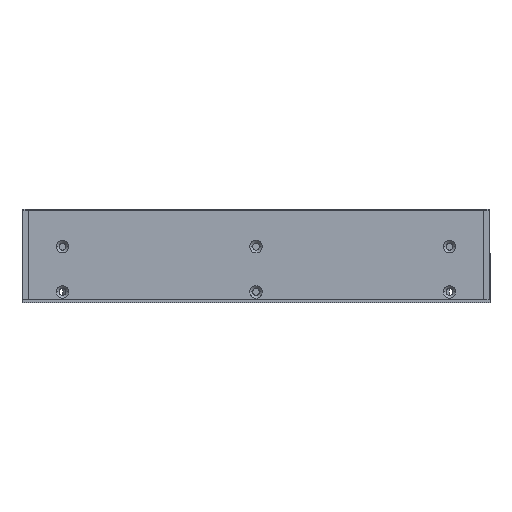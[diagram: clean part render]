
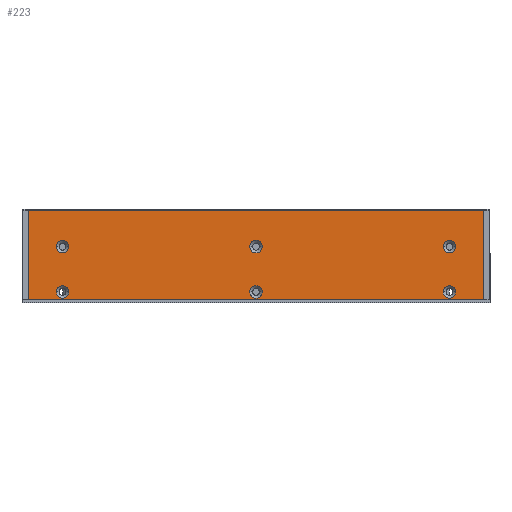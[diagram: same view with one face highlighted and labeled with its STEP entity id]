
A CAD part, front view. The second image highlights one B-rep face of the part: STEP entity #223.
In plain terms, the highlighted planar face has unit normal (0, -1, 0).
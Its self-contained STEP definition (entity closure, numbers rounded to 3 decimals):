
#11 = ORIENTED_EDGE ( 'NONE', *, *, #9347, .F. ) ;
#23 = CIRCLE ( 'NONE', #2970, 2. ) ;
#54 = LINE ( 'NONE', #784, #998 ) ;
#220 = EDGE_CURVE ( 'NONE', #411, #3539, #2284, .T. ) ;
#223 = ADVANCED_FACE ( 'NONE', ( #297, #8084, #4773, #6081, #2868, #753, #6541 ), #3564, .T. ) ;
#291 = AXIS2_PLACEMENT_3D ( 'NONE', #707, #1512, #6009 ) ;
#295 = AXIS2_PLACEMENT_3D ( 'NONE', #7357, #5019, #5115 ) ;
#297 = FACE_BOUND ( 'NONE', #1228, .T. ) ;
#298 = VERTEX_POINT ( 'NONE', #5103 ) ;
#340 = CIRCLE ( 'NONE', #295, 2. ) ;
#411 = VERTEX_POINT ( 'NONE', #5470 ) ;
#425 = ORIENTED_EDGE ( 'NONE', *, *, #3724, .T. ) ;
#589 = DIRECTION ( 'NONE',  ( 1., 0., 0. ) ) ;
#618 = CIRCLE ( 'NONE', #5036, 2. ) ;
#626 = DIRECTION ( 'NONE',  ( 0., -1., 0. ) ) ;
#648 = EDGE_CURVE ( 'NONE', #9593, #7844, #5950, .T. ) ;
#697 = DIRECTION ( 'NONE',  ( 1., 0., 0. ) ) ;
#707 = CARTESIAN_POINT ( 'NONE',  ( -7.853, -76.472, 163. ) ) ;
#736 = CARTESIAN_POINT ( 'NONE',  ( 65.147, -76.472, 146. ) ) ;
#753 = FACE_BOUND ( 'NONE', #4688, .T. ) ;
#779 = VECTOR ( 'NONE', #4387, 1000. ) ;
#784 = CARTESIAN_POINT ( 'NONE',  ( -80.853, -76.472, 174.7 ) ) ;
#834 = EDGE_CURVE ( 'NONE', #2183, #3367, #4629, .T. ) ;
#837 = EDGE_CURVE ( 'NONE', #5319, #2652, #618, .T. ) ;
#988 = DIRECTION ( 'NONE',  ( 1., 0., 0. ) ) ;
#998 = VECTOR ( 'NONE', #1558, 1000. ) ;
#1071 = VECTOR ( 'NONE', #6275, 1000. ) ;
#1173 = EDGE_CURVE ( 'NONE', #7343, #9386, #23, .T. ) ;
#1202 = DIRECTION ( 'NONE',  ( 1., 0., 0. ) ) ;
#1228 = EDGE_LOOP ( 'NONE', ( #6460, #5021 ) ) ;
#1292 = DIRECTION ( 'NONE',  ( 0., -1., 0. ) ) ;
#1297 = LINE ( 'NONE', #5524, #1071 ) ;
#1412 = DIRECTION ( 'NONE',  ( 0., -1., 0. ) ) ;
#1466 = CARTESIAN_POINT ( 'NONE',  ( -5.853, -76.472, 148.5 ) ) ;
#1512 = DIRECTION ( 'NONE',  ( 0., -1., 0. ) ) ;
#1558 = DIRECTION ( 'NONE',  ( -1., 0., 0. ) ) ;
#1647 = ORIENTED_EDGE ( 'NONE', *, *, #1173, .F. ) ;
#1707 = DIRECTION ( 'NONE',  ( 1., 0., 0. ) ) ;
#1726 = VERTEX_POINT ( 'NONE', #5354 ) ;
#1936 = CARTESIAN_POINT ( 'NONE',  ( -71.853, -76.472, 163. ) ) ;
#1991 = CARTESIAN_POINT ( 'NONE',  ( 65.147, -76.472, 146. ) ) ;
#2052 = DIRECTION ( 'NONE',  ( 1., 0., 0. ) ) ;
#2143 = CARTESIAN_POINT ( 'NONE',  ( 65.147, -76.472, 146. ) ) ;
#2169 = ORIENTED_EDGE ( 'NONE', *, *, #3922, .F. ) ;
#2177 = ORIENTED_EDGE ( 'NONE', *, *, #2772, .T. ) ;
#2183 = VERTEX_POINT ( 'NONE', #7399 ) ;
#2284 = CIRCLE ( 'NONE', #6644, 2. ) ;
#2307 = AXIS2_PLACEMENT_3D ( 'NONE', #9529, #3409, #7940 ) ;
#2417 = EDGE_LOOP ( 'NONE', ( #4195, #5854 ) ) ;
#2628 = CARTESIAN_POINT ( 'NONE',  ( -5.853, -76.472, 163. ) ) ;
#2652 = VERTEX_POINT ( 'NONE', #5146 ) ;
#2675 = DIRECTION ( 'NONE',  ( 0., -1., 0. ) ) ;
#2772 = EDGE_CURVE ( 'NONE', #298, #6888, #5046, .T. ) ;
#2776 = VERTEX_POINT ( 'NONE', #8302 ) ;
#2868 = FACE_OUTER_BOUND ( 'NONE', #8740, .T. ) ;
#2970 = AXIS2_PLACEMENT_3D ( 'NONE', #4776, #6308, #6277 ) ;
#3116 = CARTESIAN_POINT ( 'NONE',  ( 54.147, -76.472, 148.5 ) ) ;
#3346 = CARTESIAN_POINT ( 'NONE',  ( 56.147, -76.472, 163. ) ) ;
#3367 = VERTEX_POINT ( 'NONE', #1466 ) ;
#3409 = DIRECTION ( 'NONE',  ( 0., -1., 0. ) ) ;
#3431 = AXIS2_PLACEMENT_3D ( 'NONE', #5043, #1292, #2052 ) ;
#3539 = VERTEX_POINT ( 'NONE', #3346 ) ;
#3564 = PLANE ( 'NONE',  #3431 ) ;
#3594 = DIRECTION ( 'NONE',  ( 0., -1., 0. ) ) ;
#3724 = EDGE_CURVE ( 'NONE', #7652, #298, #1297, .T. ) ;
#3752 = CARTESIAN_POINT ( 'NONE',  ( -67.853, -76.472, 163. ) ) ;
#3922 = EDGE_CURVE ( 'NONE', #1726, #2776, #6163, .T. ) ;
#3954 = CIRCLE ( 'NONE', #8793, 2. ) ;
#3962 = ORIENTED_EDGE ( 'NONE', *, *, #7798, .T. ) ;
#4174 = CARTESIAN_POINT ( 'NONE',  ( 52.147, -76.472, 148.5 ) ) ;
#4195 = ORIENTED_EDGE ( 'NONE', *, *, #7576, .F. ) ;
#4347 = DIRECTION ( 'NONE',  ( 1., 0., 0. ) ) ;
#4387 = DIRECTION ( 'NONE',  ( 0., 0., 1. ) ) ;
#4434 = VERTEX_POINT ( 'NONE', #7383 ) ;
#4547 = EDGE_LOOP ( 'NONE', ( #5722, #1647 ) ) ;
#4629 = CIRCLE ( 'NONE', #2307, 2. ) ;
#4688 = EDGE_LOOP ( 'NONE', ( #5695, #8685 ) ) ;
#4773 = FACE_BOUND ( 'NONE', #2417, .T. ) ;
#4776 = CARTESIAN_POINT ( 'NONE',  ( -69.853, -76.472, 163. ) ) ;
#4982 = CARTESIAN_POINT ( 'NONE',  ( 54.147, -76.472, 148.5 ) ) ;
#5006 = EDGE_CURVE ( 'NONE', #3539, #411, #3954, .T. ) ;
#5019 = DIRECTION ( 'NONE',  ( 0., -1., 0. ) ) ;
#5021 = ORIENTED_EDGE ( 'NONE', *, *, #8488, .F. ) ;
#5036 = AXIS2_PLACEMENT_3D ( 'NONE', #4982, #2675, #1202 ) ;
#5043 = CARTESIAN_POINT ( 'NONE',  ( -7.853, -76.472, 160.5 ) ) ;
#5046 = LINE ( 'NONE', #736, #9751 ) ;
#5077 = DIRECTION ( 'NONE',  ( 1., 0., 0. ) ) ;
#5103 = CARTESIAN_POINT ( 'NONE',  ( -80.853, -76.472, 146. ) ) ;
#5115 = DIRECTION ( 'NONE',  ( 1., 0., 0. ) ) ;
#5146 = CARTESIAN_POINT ( 'NONE',  ( 56.147, -76.472, 148.5 ) ) ;
#5210 = CARTESIAN_POINT ( 'NONE',  ( -80.853, -76.472, 174.7 ) ) ;
#5319 = VERTEX_POINT ( 'NONE', #4174 ) ;
#5353 = DIRECTION ( 'NONE',  ( 0., -1., 0. ) ) ;
#5354 = CARTESIAN_POINT ( 'NONE',  ( -71.853, -76.472, 148.5 ) ) ;
#5470 = CARTESIAN_POINT ( 'NONE',  ( 52.147, -76.472, 163. ) ) ;
#5524 = CARTESIAN_POINT ( 'NONE',  ( -80.853, -76.472, 146. ) ) ;
#5525 = LINE ( 'NONE', #2143, #779 ) ;
#5628 = EDGE_LOOP ( 'NONE', ( #7973, #7767 ) ) ;
#5688 = CIRCLE ( 'NONE', #7464, 2. ) ;
#5695 = ORIENTED_EDGE ( 'NONE', *, *, #9456, .F. ) ;
#5722 = ORIENTED_EDGE ( 'NONE', *, *, #8006, .F. ) ;
#5854 = ORIENTED_EDGE ( 'NONE', *, *, #834, .F. ) ;
#5909 = DIRECTION ( 'NONE',  ( 1., 0., 0. ) ) ;
#5950 = CIRCLE ( 'NONE', #291, 2. ) ;
#5958 = CARTESIAN_POINT ( 'NONE',  ( -69.853, -76.472, 148.5 ) ) ;
#6009 = DIRECTION ( 'NONE',  ( 1., 0., 0. ) ) ;
#6081 = FACE_BOUND ( 'NONE', #7736, .T. ) ;
#6082 = CARTESIAN_POINT ( 'NONE',  ( -69.853, -76.472, 163. ) ) ;
#6163 = CIRCLE ( 'NONE', #7281, 2. ) ;
#6275 = DIRECTION ( 'NONE',  ( 0., 0., -1. ) ) ;
#6277 = DIRECTION ( 'NONE',  ( 1., 0., 0. ) ) ;
#6308 = DIRECTION ( 'NONE',  ( 0., -1., 0. ) ) ;
#6460 = ORIENTED_EDGE ( 'NONE', *, *, #648, .F. ) ;
#6541 = FACE_BOUND ( 'NONE', #5628, .T. ) ;
#6611 = CARTESIAN_POINT ( 'NONE',  ( 54.147, -76.472, 163. ) ) ;
#6644 = AXIS2_PLACEMENT_3D ( 'NONE', #9540, #8170, #5077 ) ;
#6888 = VERTEX_POINT ( 'NONE', #1991 ) ;
#6913 = CIRCLE ( 'NONE', #9769, 2. ) ;
#6997 = AXIS2_PLACEMENT_3D ( 'NONE', #6082, #5353, #988 ) ;
#7219 = CIRCLE ( 'NONE', #9530, 2. ) ;
#7281 = AXIS2_PLACEMENT_3D ( 'NONE', #5958, #1412, #697 ) ;
#7343 = VERTEX_POINT ( 'NONE', #1936 ) ;
#7357 = CARTESIAN_POINT ( 'NONE',  ( -7.853, -76.472, 148.5 ) ) ;
#7383 = CARTESIAN_POINT ( 'NONE',  ( 65.147, -76.472, 174.7 ) ) ;
#7399 = CARTESIAN_POINT ( 'NONE',  ( -9.853, -76.472, 148.5 ) ) ;
#7464 = AXIS2_PLACEMENT_3D ( 'NONE', #3116, #8484, #1707 ) ;
#7576 = EDGE_CURVE ( 'NONE', #3367, #2183, #340, .T. ) ;
#7652 = VERTEX_POINT ( 'NONE', #5210 ) ;
#7736 = EDGE_LOOP ( 'NONE', ( #11, #2169 ) ) ;
#7767 = ORIENTED_EDGE ( 'NONE', *, *, #220, .F. ) ;
#7798 = EDGE_CURVE ( 'NONE', #6888, #4434, #5525, .T. ) ;
#7844 = VERTEX_POINT ( 'NONE', #9663 ) ;
#7940 = DIRECTION ( 'NONE',  ( 1., 0., 0. ) ) ;
#7973 = ORIENTED_EDGE ( 'NONE', *, *, #5006, .F. ) ;
#8006 = EDGE_CURVE ( 'NONE', #9386, #7343, #9520, .T. ) ;
#8084 = FACE_BOUND ( 'NONE', #4547, .T. ) ;
#8170 = DIRECTION ( 'NONE',  ( 0., -1., 0. ) ) ;
#8302 = CARTESIAN_POINT ( 'NONE',  ( -67.853, -76.472, 148.5 ) ) ;
#8484 = DIRECTION ( 'NONE',  ( 0., -1., 0. ) ) ;
#8488 = EDGE_CURVE ( 'NONE', #7844, #9593, #6913, .T. ) ;
#8571 = ORIENTED_EDGE ( 'NONE', *, *, #8613, .T. ) ;
#8613 = EDGE_CURVE ( 'NONE', #4434, #7652, #54, .T. ) ;
#8685 = ORIENTED_EDGE ( 'NONE', *, *, #837, .F. ) ;
#8740 = EDGE_LOOP ( 'NONE', ( #3962, #8571, #425, #2177 ) ) ;
#8793 = AXIS2_PLACEMENT_3D ( 'NONE', #6611, #3594, #5909 ) ;
#8830 = CARTESIAN_POINT ( 'NONE',  ( -69.853, -76.472, 148.5 ) ) ;
#8861 = DIRECTION ( 'NONE',  ( 0., -1., 0. ) ) ;
#9055 = DIRECTION ( 'NONE',  ( 1., 0., 0. ) ) ;
#9347 = EDGE_CURVE ( 'NONE', #2776, #1726, #7219, .T. ) ;
#9386 = VERTEX_POINT ( 'NONE', #3752 ) ;
#9456 = EDGE_CURVE ( 'NONE', #2652, #5319, #5688, .T. ) ;
#9520 = CIRCLE ( 'NONE', #6997, 2. ) ;
#9529 = CARTESIAN_POINT ( 'NONE',  ( -7.853, -76.472, 148.5 ) ) ;
#9530 = AXIS2_PLACEMENT_3D ( 'NONE', #8830, #8861, #4347 ) ;
#9540 = CARTESIAN_POINT ( 'NONE',  ( 54.147, -76.472, 163. ) ) ;
#9593 = VERTEX_POINT ( 'NONE', #2628 ) ;
#9613 = CARTESIAN_POINT ( 'NONE',  ( -7.853, -76.472, 163. ) ) ;
#9663 = CARTESIAN_POINT ( 'NONE',  ( -9.853, -76.472, 163. ) ) ;
#9751 = VECTOR ( 'NONE', #9055, 1000. ) ;
#9769 = AXIS2_PLACEMENT_3D ( 'NONE', #9613, #626, #589 ) ;
